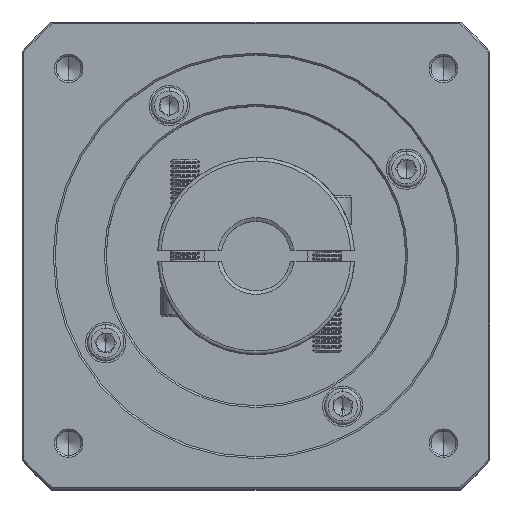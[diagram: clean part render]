
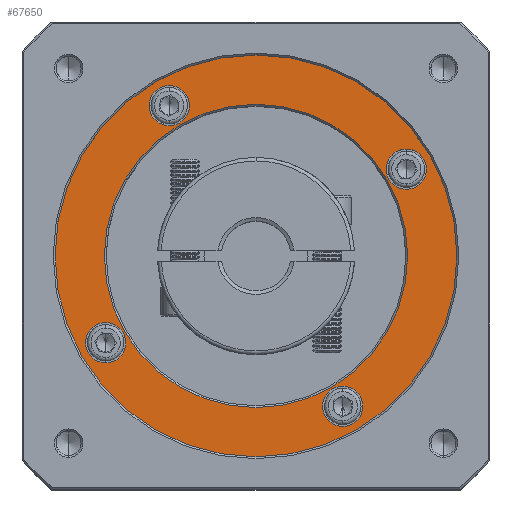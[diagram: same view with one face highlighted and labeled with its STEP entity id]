
A CAD part, top view. The second image highlights one B-rep face of the part: STEP entity #67650.
In plain terms, the highlighted planar face has unit normal (0, 0, 1).
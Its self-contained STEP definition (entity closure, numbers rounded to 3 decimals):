
#1943 = CIRCLE ( 'NONE', #23482, 5.5 ) ;
#5117 = DIRECTION ( 'NONE',  ( 0., 0., -1. ) ) ;
#5595 = DIRECTION ( 'NONE',  ( 0., 1., 0. ) ) ;
#6422 = ORIENTED_EDGE ( 'NONE', *, *, #107170, .T. ) ;
#7045 = ORIENTED_EDGE ( 'NONE', *, *, #57279, .T. ) ;
#9792 = CARTESIAN_POINT ( 'NONE',  ( 17.796, 39.211, -8.954 ) ) ;
#12573 = AXIS2_PLACEMENT_3D ( 'NONE', #59060, #57238, #88996 ) ;
#15920 = CARTESIAN_POINT ( 'NONE',  ( 18.16, 15.461, -8.954 ) ) ;
#16317 = AXIS2_PLACEMENT_3D ( 'NONE', #84926, #73727, #41916 ) ;
#16719 = CARTESIAN_POINT ( 'NONE',  ( 59.296, 39.211, -8.954 ) ) ;
#17001 = DIRECTION ( 'NONE',  ( 0., 1., 0. ) ) ;
#17243 = CARTESIAN_POINT ( 'NONE',  ( 100.796, 39.211, -8.954 ) ) ;
#18416 = AXIS2_PLACEMENT_3D ( 'NONE', #78582, #26201, #121690 ) ;
#20203 = CARTESIAN_POINT ( 'NONE',  ( 100.432, 62.961, -8.954 ) ) ;
#21756 = CIRCLE ( 'NONE', #124975, 5.5 ) ;
#23154 = ORIENTED_EDGE ( 'NONE', *, *, #75586, .T. ) ;
#23482 = AXIS2_PLACEMENT_3D ( 'NONE', #119215, #75662, #96715 ) ;
#25119 = DIRECTION ( 'NONE',  ( 0., 0., -1. ) ) ;
#25155 = FACE_BOUND ( 'NONE', #129780, .T. ) ;
#25366 = EDGE_LOOP ( 'NONE', ( #119710, #83645 ) ) ;
#26201 = DIRECTION ( 'NONE',  ( 0., 0., -1. ) ) ;
#26625 = DIRECTION ( 'NONE',  ( 0., 1., 0. ) ) ;
#26731 = FACE_OUTER_BOUND ( 'NONE', #25366, .T. ) ;
#27238 = CARTESIAN_POINT ( 'NONE',  ( 59.296, 39.211, -8.954 ) ) ;
#27678 = VERTEX_POINT ( 'NONE', #32589 ) ;
#28374 = ORIENTED_EDGE ( 'NONE', *, *, #135959, .T. ) ;
#28759 = AXIS2_PLACEMENT_3D ( 'NONE', #16719, #48914, #102678 ) ;
#30487 = AXIS2_PLACEMENT_3D ( 'NONE', #115771, #51157, #137756 ) ;
#30632 = AXIS2_PLACEMENT_3D ( 'NONE', #102513, #103444, #38437 ) ;
#32589 = CARTESIAN_POINT ( 'NONE',  ( 59.296, -15.789, -8.954 ) ) ;
#35037 = EDGE_CURVE ( 'NONE', #132522, #120684, #51207, .T. ) ;
#36455 = VERTEX_POINT ( 'NONE', #91745 ) ;
#36528 = ORIENTED_EDGE ( 'NONE', *, *, #115809, .T. ) ;
#38437 = DIRECTION ( 'NONE',  ( 0., 1., 0. ) ) ;
#39798 = VERTEX_POINT ( 'NONE', #120496 ) ;
#41916 = DIRECTION ( 'NONE',  ( 1., 0., 0. ) ) ;
#42232 = VERTEX_POINT ( 'NONE', #111977 ) ;
#42596 = CIRCLE ( 'NONE', #109060, 5.5 ) ;
#43499 = FACE_BOUND ( 'NONE', #73792, .T. ) ;
#44169 = VERTEX_POINT ( 'NONE', #104764 ) ;
#45807 = EDGE_LOOP ( 'NONE', ( #36528, #23154 ) ) ;
#48914 = DIRECTION ( 'NONE',  ( 0., 0., 1. ) ) ;
#49098 = CARTESIAN_POINT ( 'NONE',  ( 18.16, 20.961, -8.954 ) ) ;
#50112 = AXIS2_PLACEMENT_3D ( 'NONE', #27238, #134381, #17001 ) ;
#51017 = DIRECTION ( 'NONE',  ( 0., 1., 0. ) ) ;
#51157 = DIRECTION ( 'NONE',  ( 0., 0., -1. ) ) ;
#51207 = CIRCLE ( 'NONE', #117716, 5.5 ) ;
#51779 = VERTEX_POINT ( 'NONE', #9792 ) ;
#51867 = FACE_BOUND ( 'NONE', #62220, .T. ) ;
#52424 = DIRECTION ( 'NONE',  ( 0., 0., -1. ) ) ;
#56925 = DIRECTION ( 'NONE',  ( 0., 1., 0. ) ) ;
#57238 = DIRECTION ( 'NONE',  ( 0., 0., 1. ) ) ;
#57279 = EDGE_CURVE ( 'NONE', #102737, #39798, #42596, .T. ) ;
#58546 = FACE_BOUND ( 'NONE', #45807, .T. ) ;
#59060 = CARTESIAN_POINT ( 'NONE',  ( 59.296, 39.211, -8.954 ) ) ;
#59501 = PLANE ( 'NONE',  #50112 ) ;
#62220 = EDGE_LOOP ( 'NONE', ( #81621, #6422 ) ) ;
#62719 = DIRECTION ( 'NONE',  ( 0., 1., 0. ) ) ;
#62753 = EDGE_CURVE ( 'NONE', #27678, #44169, #112687, .T. ) ;
#63191 = CARTESIAN_POINT ( 'NONE',  ( 18.16, 15.461, -8.954 ) ) ;
#63394 = EDGE_CURVE ( 'NONE', #39798, #102737, #108686, .T. ) ;
#65166 = ORIENTED_EDGE ( 'NONE', *, *, #35037, .T. ) ;
#67650 = ADVANCED_FACE ( 'NONE', ( #26731, #58546, #25155, #43499, #113878, #51867 ), #59501, .T. ) ;
#68156 = EDGE_CURVE ( 'NONE', #101899, #95593, #68456, .T. ) ;
#68456 = CIRCLE ( 'NONE', #135366, 5.5 ) ;
#69118 = CARTESIAN_POINT ( 'NONE',  ( 83.046, -1.925, -8.954 ) ) ;
#70054 = ORIENTED_EDGE ( 'NONE', *, *, #94477, .T. ) ;
#72849 = CIRCLE ( 'NONE', #12573, 55. ) ;
#73727 = DIRECTION ( 'NONE',  ( 0., 0., -1. ) ) ;
#73792 = EDGE_LOOP ( 'NONE', ( #28374, #70054 ) ) ;
#75586 = EDGE_CURVE ( 'NONE', #51779, #104085, #110520, .T. ) ;
#75662 = DIRECTION ( 'NONE',  ( 0., 0., -1. ) ) ;
#76647 = AXIS2_PLACEMENT_3D ( 'NONE', #20203, #52424, #51017 ) ;
#78582 = CARTESIAN_POINT ( 'NONE',  ( 59.296, 39.211, -8.954 ) ) ;
#80573 = ORIENTED_EDGE ( 'NONE', *, *, #63394, .T. ) ;
#81621 = ORIENTED_EDGE ( 'NONE', *, *, #68156, .T. ) ;
#82278 = CIRCLE ( 'NONE', #18416, 41.5 ) ;
#83645 = ORIENTED_EDGE ( 'NONE', *, *, #62753, .T. ) ;
#84675 = DIRECTION ( 'NONE',  ( 0., 0., -1. ) ) ;
#84780 = CARTESIAN_POINT ( 'NONE',  ( 83.046, 3.575, -8.954 ) ) ;
#84926 = CARTESIAN_POINT ( 'NONE',  ( 59.296, 39.211, -8.954 ) ) ;
#88335 = CARTESIAN_POINT ( 'NONE',  ( 83.046, -7.425, -8.954 ) ) ;
#88489 = ORIENTED_EDGE ( 'NONE', *, *, #109198, .T. ) ;
#88996 = DIRECTION ( 'NONE',  ( 0., 1., 0. ) ) ;
#90691 = DIRECTION ( 'NONE',  ( 0., 0., -1. ) ) ;
#91745 = CARTESIAN_POINT ( 'NONE',  ( 100.432, 57.461, -8.954 ) ) ;
#94477 = EDGE_CURVE ( 'NONE', #36455, #42232, #1943, .T. ) ;
#95593 = VERTEX_POINT ( 'NONE', #88335 ) ;
#96715 = DIRECTION ( 'NONE',  ( 0., 1., 0. ) ) ;
#99535 = CIRCLE ( 'NONE', #30487, 5.5 ) ;
#101899 = VERTEX_POINT ( 'NONE', #84780 ) ;
#102513 = CARTESIAN_POINT ( 'NONE',  ( 35.546, 80.348, -8.954 ) ) ;
#102678 = DIRECTION ( 'NONE',  ( 0., 1., 0. ) ) ;
#102737 = VERTEX_POINT ( 'NONE', #125834 ) ;
#103444 = DIRECTION ( 'NONE',  ( 0., 0., -1. ) ) ;
#104085 = VERTEX_POINT ( 'NONE', #17243 ) ;
#104764 = CARTESIAN_POINT ( 'NONE',  ( 59.296, 94.211, -8.954 ) ) ;
#107170 = EDGE_CURVE ( 'NONE', #95593, #101899, #99535, .T. ) ;
#108686 = CIRCLE ( 'NONE', #30632, 5.5 ) ;
#109060 = AXIS2_PLACEMENT_3D ( 'NONE', #118767, #25119, #56925 ) ;
#109198 = EDGE_CURVE ( 'NONE', #120684, #132522, #21756, .T. ) ;
#109229 = CIRCLE ( 'NONE', #76647, 5.5 ) ;
#110520 = CIRCLE ( 'NONE', #16317, 41.5 ) ;
#111977 = CARTESIAN_POINT ( 'NONE',  ( 100.432, 68.461, -8.954 ) ) ;
#112687 = CIRCLE ( 'NONE', #28759, 55. ) ;
#112695 = EDGE_LOOP ( 'NONE', ( #88489, #65166 ) ) ;
#113878 = FACE_BOUND ( 'NONE', #112695, .T. ) ;
#115771 = CARTESIAN_POINT ( 'NONE',  ( 83.046, -1.925, -8.954 ) ) ;
#115809 = EDGE_CURVE ( 'NONE', #104085, #51779, #82278, .T. ) ;
#117716 = AXIS2_PLACEMENT_3D ( 'NONE', #63191, #84675, #62719 ) ;
#118767 = CARTESIAN_POINT ( 'NONE',  ( 35.546, 80.348, -8.954 ) ) ;
#119215 = CARTESIAN_POINT ( 'NONE',  ( 100.432, 62.961, -8.954 ) ) ;
#119710 = ORIENTED_EDGE ( 'NONE', *, *, #126127, .T. ) ;
#120028 = CARTESIAN_POINT ( 'NONE',  ( 18.16, 9.961, -8.954 ) ) ;
#120496 = CARTESIAN_POINT ( 'NONE',  ( 35.546, 74.848, -8.954 ) ) ;
#120684 = VERTEX_POINT ( 'NONE', #49098 ) ;
#121690 = DIRECTION ( 'NONE',  ( 1., 0., 0. ) ) ;
#124975 = AXIS2_PLACEMENT_3D ( 'NONE', #15920, #90691, #26625 ) ;
#125834 = CARTESIAN_POINT ( 'NONE',  ( 35.546, 85.848, -8.954 ) ) ;
#126127 = EDGE_CURVE ( 'NONE', #44169, #27678, #72849, .T. ) ;
#129780 = EDGE_LOOP ( 'NONE', ( #7045, #80573 ) ) ;
#132522 = VERTEX_POINT ( 'NONE', #120028 ) ;
#134381 = DIRECTION ( 'NONE',  ( 0., 0., 1. ) ) ;
#135366 = AXIS2_PLACEMENT_3D ( 'NONE', #69118, #5117, #5595 ) ;
#135959 = EDGE_CURVE ( 'NONE', #42232, #36455, #109229, .T. ) ;
#137756 = DIRECTION ( 'NONE',  ( 0., 1., 0. ) ) ;
